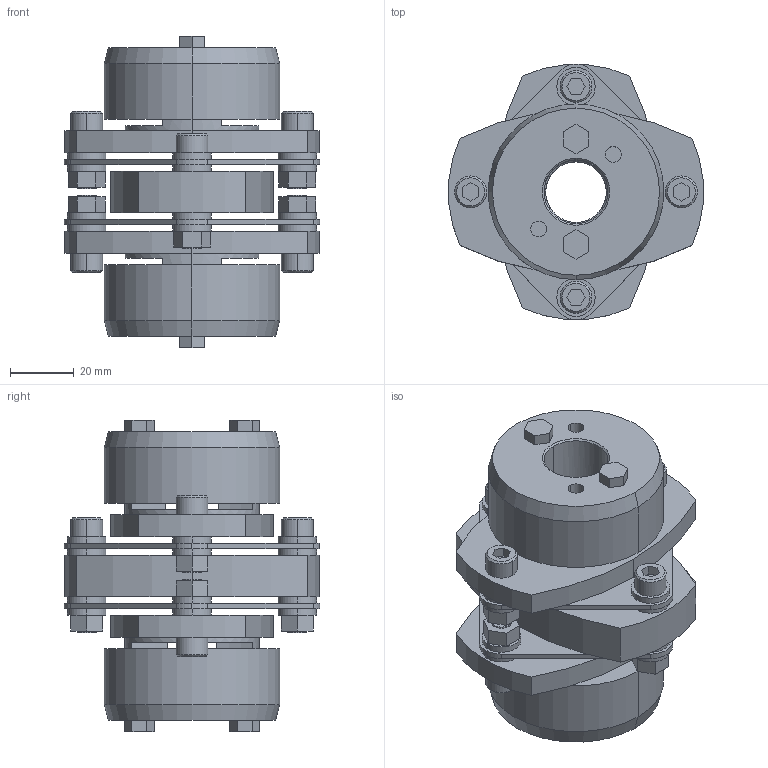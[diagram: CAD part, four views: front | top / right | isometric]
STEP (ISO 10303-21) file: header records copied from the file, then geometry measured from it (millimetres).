
FILE_DESCRIPTION((''),'2;1');
FILE_NAME('LCD-80T7-19×20.stp','2011-09-15T13:29:05',(''),(''),'AutoCAD STEP 2000i','AutoCAD 2000i',', , ');
FILE_SCHEMA(('CONFIG_CONTROL_DESIGN'));
Length unit declared in the file: millimetre
Products named in the file (7): LCD-80T7-19×19; 忣兜1; LC80T7-T019-1; LC80T7-T019; LC80T7-T017-1; LC80T7-T017; LCD80-ITA
Assembly tree (6 placements, depth 2):
  LCD-80T7-19×19
    忣兜1
    LC80T7-T019-1
    LC80T7-T019
    LC80T7-T017-1
    LC80T7-T017
    LCD80-ITA
Bounding box: 80 x 79.95 x 97.5 mm (x, y, z)
Volume: 191122.9 mm3; surface area: 58035.6 mm2
Topology: 1 solids, 1 shells, 306 faces, 744 edges, 488 vertices
Faces by surface type: plane 162, cylinder 120, cone 24
Entity records: 9247 total; most frequent: DIRECTION 1650, CARTESIAN_POINT 1545, ORIENTED_EDGE 1488, EDGE_CURVE 744, AXIS2_PLACEMENT_3D 593, VERTEX_POINT 488, VECTOR 464, LINE 464
